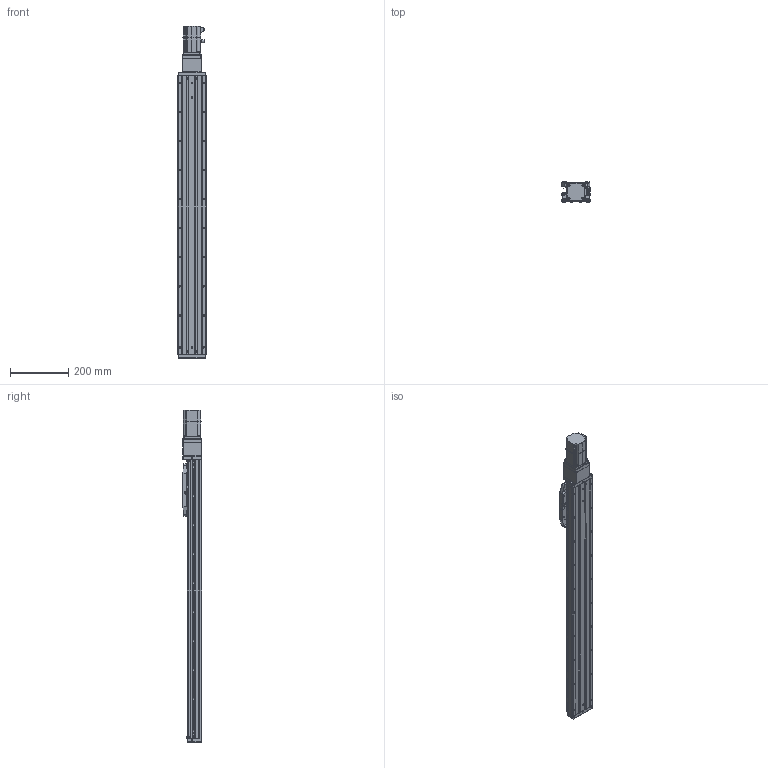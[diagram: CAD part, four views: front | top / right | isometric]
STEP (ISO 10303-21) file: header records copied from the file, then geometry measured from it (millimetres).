
FILE_DESCRIPTION (( 'STEP AP203' ), '1' );
FILE_NAME ('CTHA100-750-BC-M20-C4L.step', '2022-07-06T08:53:42', ( '微软用户' ), ( '微软中国' ), 'SwSTEP 2.0', 'SolidWorks 2020', '' );
FILE_SCHEMA (( 'CONFIG_CONTROL_DESIGN' ));
Length unit declared in the file: millimetre
Products named in the file (20): CTHA60-021; CTHA86-027; KTHA100-001_960; GBT77-2000 M3×3; CTHA86-006-1_CTHA86-006-2; KTHA100-004; GBT 70.1-M3℅6; GBT 70.3-M3℅6; KTHA100-005; GBT70.1 M5℅16; CTHA100-002; GB¨uT 70.2-M3¡Á5_M3¡Á6; CTHA60-016; CTHA100-031; EE_SX911P_R; _X2_4E0983F1_X0_200W_1; CTHA86-030; CTHA60-017; CTHA86-013; CTHA100-750-BC-M20-C4L
Assembly tree (63 placements, depth 2):
  CTHA100-750-BC-M20-C4L
    KTHA100-001_960
    KTHA100-004
    KTHA100-005
    GB¨uT 70.2-M3¡Á5_M3¡Á6  x10
    EE_SX911P_R  x3
    CTHA60-017  x3
    CTHA60-021  x2
    GBT77-2000 M3×3  x6
    GBT 70.1-M3℅6  x6
    GBT70.1 M5℅16  x14
    CTHA60-016  x2
    _X2_4E0983F1_X0_200W_1
    CTHA86-013
    CTHA86-027
    CTHA86-006-1_CTHA86-006-2
    GBT 70.3-M3℅6  x6
    CTHA100-002
    CTHA100-031
    CTHA86-030  x2
Bounding box: 98.82 x 68 x 1142.5 mm (x, y, z)
Volume: 4080546.8 mm3; surface area: 698666.8 mm2
Topology: 65 solids, 65 shells, 2679 faces, 6438 edges, 3976 vertices
Faces by surface type: plane 1399, cylinder 697, cone 378, torus 112, bspline 69, sphere 24
Entity records: 46934 total; most frequent: CARTESIAN_POINT 8786, DIRECTION 7371, ORIENTED_EDGE 7148, EDGE_CURVE 3574, AXIS2_PLACEMENT_3D 2497, LINE 2377, VECTOR 2377, VERTEX_POINT 2254
